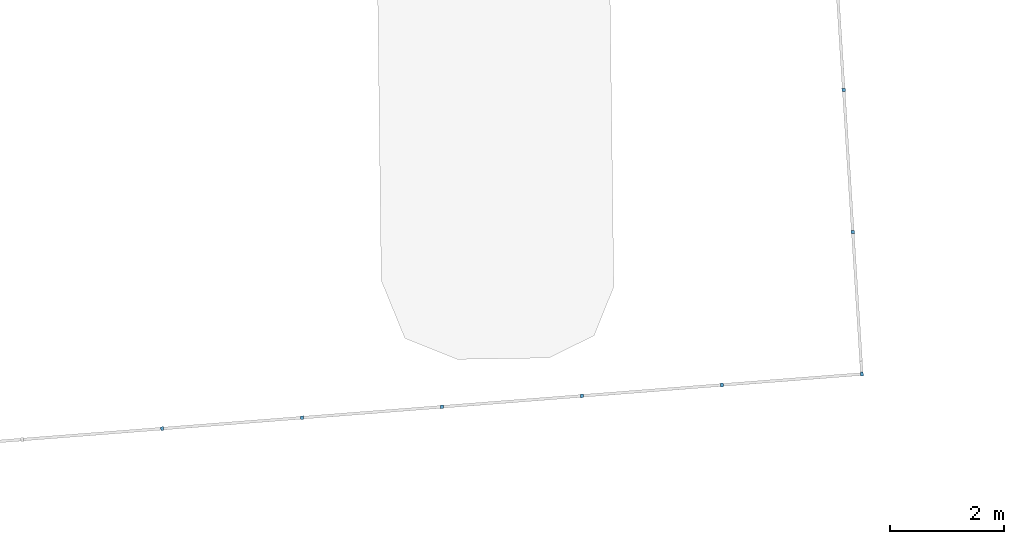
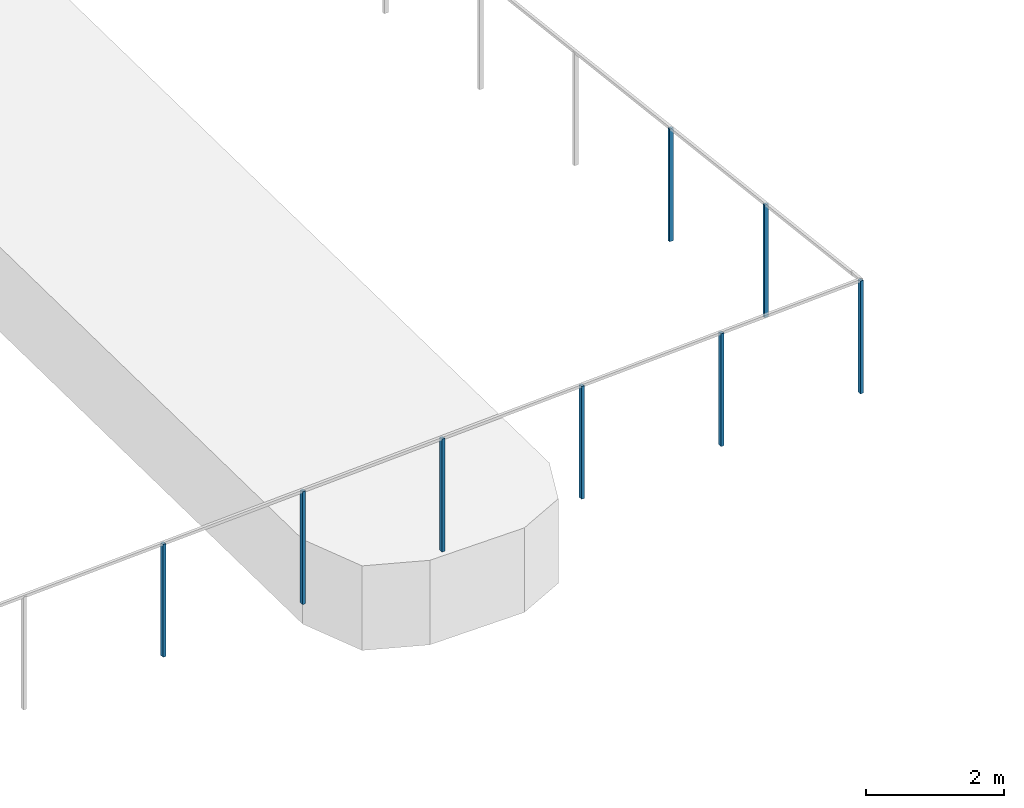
# One storey, part 72 of 91: 8 building element parts, 1 element without a shape of its own.
"""IFC2X3 building model written with IfcOpenShell, lengths in metres."""

from ifc_helpers import new_model, entity, si_unit, converted_unit, derived_unit, money_unit, direction, frame, origin_with_axes, place, context, subcontext, project, spatial, faceted_brep, material, type_object, element, aggregate, save


model = new_model("IFC2X3")

# Units and contexts
model_context = context("Model", 3, precision=1e-05, world=origin_with_axes(), true_north=direction((0.0, 1.0)))
body_context = subcontext(model_context, "Body", "Model", "MODEL_VIEW")
ifc_project = project(units=[si_unit("LENGTHUNIT", "METRE"), si_unit("AREAUNIT", "SQUARE_METRE"), si_unit("VOLUMEUNIT", "CUBIC_METRE"), converted_unit("PLANEANGLEUNIT", "DEGREE", entity("IfcPlaneAngleMeasure", 0.0174532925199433), si_unit("PLANEANGLEUNIT", "RADIAN"), dimensions=[0, 0, 0, 0, 0, 0, 0]), money_unit("EUR"), converted_unit("TIMEUNIT", "Year", entity("IfcTimeMeasure", 31557600.0), si_unit("TIMEUNIT", "SECOND"), dimensions=[0, 0, 1, 0, 0, 0, 0]), si_unit("MASSUNIT", "GRAM", prefix="KILO"), si_unit("THERMODYNAMICTEMPERATUREUNIT", "DEGREE_CELSIUS"), si_unit("LUMINOUSINTENSITYUNIT", "LUMEN"), si_unit("ENERGYUNIT", "JOULE", prefix="MEGA"), derived_unit("THERMALCONDUCTANCEUNIT", [(si_unit("POWERUNIT", "WATT"), 1), (si_unit("LENGTHUNIT", "METRE"), -1), (si_unit("THERMODYNAMICTEMPERATUREUNIT", "KELVIN"), -1)]), derived_unit("SPECIFICHEATCAPACITYUNIT", [(si_unit("ENERGYUNIT", "JOULE"), 1), (si_unit("MASSUNIT", "GRAM", prefix="KILO"), -1), (si_unit("THERMODYNAMICTEMPERATUREUNIT", "KELVIN"), -1)]), derived_unit("MASSDENSITYUNIT", [(si_unit("MASSUNIT", "GRAM", prefix="KILO"), 1), (si_unit("VOLUMEUNIT", "CUBIC_METRE"), -1)])], contexts=[model_context])

# Site, building, storey
site_placement = place(None, origin_with_axes())
site = spatial("IfcSite", under=ifc_project, at=site_placement, Name="Site", CompositionType="ELEMENT")
building_placement = place(site_placement, origin_with_axes())
building = spatial("IfcBuilding", under=site, at=building_placement, Name="Bâtiment", CompositionType="ELEMENT")
storey_placement = place(building_placement, origin_with_axes())
storey = spatial("IfcBuildingStorey", under=building, at=storey_placement, Name="RDC", CompositionType="ELEMENT", Elevation=0.0)

# Proxy, building element parts
building_element_proxy_type = type_object("IfcBuildingElementProxyType", Name="Type de garde-corps", PredefinedType="NOTDEFINED")
proxy_placement = place(storey_placement, frame((79.63337255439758, 3.614023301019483, -2.37161404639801), z_axis=(0.0, 0.0, 1.0), x_axis=(1.0, 0.0, 0.0)))
proxy = element("IfcBuildingElementProxy", 1, at=proxy_placement, inside=storey, type_object=building_element_proxy_type, Name="RAMPE-004")
ifc_material = material(Name="Acier Galva")
building_element_part_1_placement = place(proxy_placement, origin_with_axes())
building_element_part_1 = element("IfcBuildingElementPart", 2, at=building_element_part_1_placement, material=ifc_material, Name="Acier Galva", context=body_context, shape_type="Brep", body=[
    faceted_brep([(23.41862999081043, -16.28879224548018, 0.8255056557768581), (23.4134839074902, -16.22299317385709, 0.8241251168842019), (23.41348966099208, -16.22299272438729, 2.825596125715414), (23.36878152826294, -16.29268207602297, 0.8259236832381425), (23.36363544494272, -16.22688300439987, 0.8245431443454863), (23.3636411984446, -16.22688255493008, 2.825596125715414), (23.41862423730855, -16.28879269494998, 2.825596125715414), (23.36877577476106, -16.29268252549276, 2.825596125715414)], [[[0, 1, 2]], [[0, 3, 4, 1]], [[1, 4, 5, 2]], [[0, 2, 6]], [[3, 0, 6, 7]], [[4, 3, 7]], [[4, 7, 5]], [[6, 2, 5, 7]]]),
])
building_element_part_2_placement = place(proxy_placement, origin_with_axes())
building_element_part_2 = element("IfcBuildingElementPart", 3, at=building_element_part_2_placement, material=ifc_material, Name="Acier Galva", context=body_context, shape_type="Brep", body=[
    faceted_brep([(11.16436495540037, -17.24503065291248, 1.023406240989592), (11.15923037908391, -17.17923068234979, 1.023406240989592), (11.15923037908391, -17.17923068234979, 3.023406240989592), (11.16436495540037, -17.24503065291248, 3.023406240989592), (11.11451649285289, -17.24892048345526, 1.024212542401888), (11.10938191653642, -17.18312051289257, 1.024212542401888), (11.10938191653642, -17.18312051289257, 3.024212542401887), (11.11451649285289, -17.24892048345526, 3.024212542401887)], [[[0, 1, 2, 3]], [[0, 4, 5, 1]], [[1, 5, 6, 2]], [[3, 2, 6, 7]], [[4, 0, 3, 7]], [[5, 4, 7, 6]]]),
])
building_element_part_3_placement = place(proxy_placement, origin_with_axes())
building_element_part_3 = element("IfcBuildingElementPart", 4, at=building_element_part_3_placement, material=ifc_material, Name="Acier Galva", context=body_context, shape_type="Brep", body=[
    faceted_brep([(13.61521681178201, -17.05378306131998, 0.9837635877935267), (13.61008223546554, -16.98798309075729, 0.9837635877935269), (13.61008223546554, -16.98798309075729, 2.983763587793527), (13.61521681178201, -17.05378306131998, 2.983763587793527), (13.56536834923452, -17.05767289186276, 0.9845698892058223), (13.56023377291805, -16.99187292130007, 0.9845698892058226), (13.56023377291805, -16.99187292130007, 2.984569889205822), (13.56536834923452, -17.05767289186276, 2.984569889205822)], [[[0, 1, 2, 3]], [[0, 4, 5, 1]], [[1, 5, 6, 2]], [[3, 2, 6, 7]], [[4, 0, 3, 7]], [[5, 4, 7, 6]]]),
])
building_element_part_4_placement = place(proxy_placement, origin_with_axes())
building_element_part_4 = element("IfcBuildingElementPart", 5, at=building_element_part_4_placement, material=ifc_material, Name="Acier Galva", context=body_context, shape_type="Brep", body=[
    faceted_brep([(16.06606866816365, -16.86253546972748, 0.9441209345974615), (16.06093409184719, -16.79673549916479, 0.9441209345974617), (16.06093409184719, -16.79673549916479, 2.944120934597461), (16.06606866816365, -16.86253546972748, 2.944120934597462), (16.01622020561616, -16.86642530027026, 0.9449272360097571), (16.0110856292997, -16.80062532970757, 0.9449272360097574), (16.0110856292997, -16.80062532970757, 2.944927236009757), (16.01622020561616, -16.86642530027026, 2.944927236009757)], [[[0, 1, 2, 3]], [[0, 4, 5, 1]], [[1, 5, 6, 2]], [[3, 2, 6, 7]], [[4, 0, 3, 7]], [[5, 4, 7, 6]]]),
])
building_element_part_5_placement = place(proxy_placement, origin_with_axes())
building_element_part_5 = element("IfcBuildingElementPart", 6, at=building_element_part_5_placement, material=ifc_material, Name="Acier Galva", context=body_context, shape_type="Brep", body=[
    faceted_brep([(18.51692052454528, -16.67128787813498, 0.9044782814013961), (18.51178594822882, -16.60548790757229, 0.9044782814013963), (18.51178594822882, -16.60548790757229, 2.904478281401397), (18.51692052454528, -16.67128787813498, 2.904478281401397), (18.4670720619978, -16.67517770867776, 0.9052845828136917), (18.46193748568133, -16.60937773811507, 0.905284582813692), (18.46193748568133, -16.60937773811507, 2.905284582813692), (18.4670720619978, -16.67517770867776, 2.905284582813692)], [[[0, 1, 2, 3]], [[0, 4, 5, 1]], [[1, 5, 6, 2]], [[3, 2, 6, 7]], [[4, 0, 3, 7]], [[5, 4, 7, 6]]]),
])
building_element_part_6_placement = place(proxy_placement, origin_with_axes())
building_element_part_6 = element("IfcBuildingElementPart", 7, at=building_element_part_6_placement, material=ifc_material, Name="Acier Galva", context=body_context, shape_type="Brep", body=[
    faceted_brep([(20.96777238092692, -16.48004028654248, 0.8648356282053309), (20.96263780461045, -16.41424031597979, 0.8648356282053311), (20.96263780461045, -16.41424031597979, 2.864835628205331), (20.96777238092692, -16.48004028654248, 2.864835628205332), (20.91792391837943, -16.48393011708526, 0.8656419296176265), (20.91278934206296, -16.41813014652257, 0.8656419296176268), (20.91278934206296, -16.41813014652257, 2.865641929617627), (20.91792391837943, -16.48393011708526, 2.865641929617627)], [[[0, 1, 2, 3]], [[0, 4, 5, 1]], [[1, 5, 6, 2]], [[3, 2, 6, 7]], [[4, 0, 3, 7]], [[5, 4, 7, 6]]]),
])
building_element_part_7_placement = place(proxy_placement, origin_with_axes())
building_element_part_7 = element("IfcBuildingElementPart", 8, at=building_element_part_7_placement, material=ifc_material, Name="Acier Galva", context=body_context, shape_type="Brep", body=[
    faceted_brep([(23.2635746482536, -13.74347624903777, 0.7190823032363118), (23.19770891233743, -13.74768396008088, 0.7190823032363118), (23.19770891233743, -13.74768396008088, 2.719082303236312), (23.2635746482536, -13.74347624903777, 2.719082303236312), (23.26676230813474, -13.79337453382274, 0.7211751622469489), (23.20089657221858, -13.79758224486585, 0.7211751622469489), (23.20089657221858, -13.79758224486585, 2.721175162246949), (23.26676230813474, -13.79337453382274, 2.721175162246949)], [[[0, 1, 2, 3]], [[0, 4, 5, 1]], [[1, 5, 6, 2]], [[3, 2, 6, 7]], [[4, 0, 3, 7]], [[5, 4, 7, 6]]]),
])
building_element_part_8_placement = place(proxy_placement, origin_with_axes())
building_element_part_8 = element("IfcBuildingElementPart", 9, at=building_element_part_8_placement, material=ifc_material, Name="Acier Galva", context=body_context, shape_type="Brep", body=[
    faceted_brep([(23.1046775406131, -11.25616787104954, 0.6147583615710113), (23.03881180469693, -11.26037558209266, 0.6147583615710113), (23.03881180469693, -11.26037558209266, 2.614758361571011), (23.1046775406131, -11.25616787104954, 2.614758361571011), (23.10786520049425, -11.30606615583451, 0.6168512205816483), (23.04199946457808, -11.31027386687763, 0.6168512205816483), (23.04199946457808, -11.31027386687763, 2.616851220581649), (23.10786520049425, -11.30606615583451, 2.616851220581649)], [[[0, 1, 2, 3]], [[0, 4, 5, 1]], [[1, 5, 6, 2]], [[3, 2, 6, 7]], [[4, 0, 3, 7]], [[5, 4, 7, 6]]]),
])
aggregate(proxy, [building_element_part_1, building_element_part_2, building_element_part_3, building_element_part_4, building_element_part_5, building_element_part_6, building_element_part_7, building_element_part_8])

save(model, "model.ifc")
